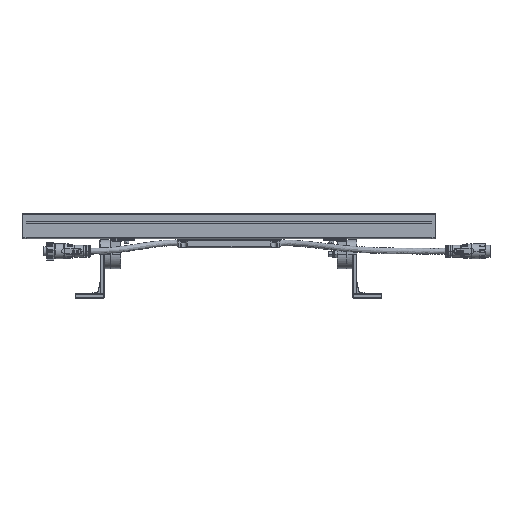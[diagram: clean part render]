
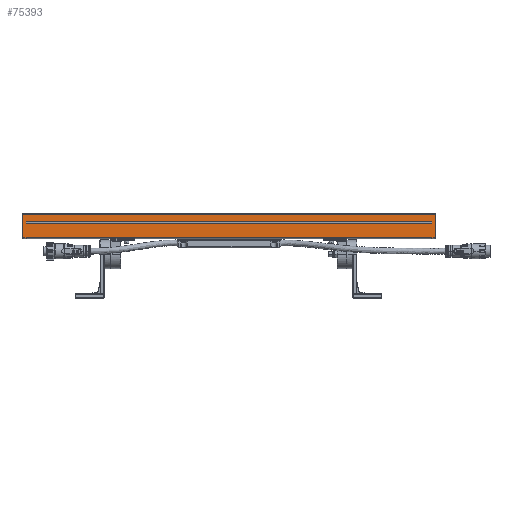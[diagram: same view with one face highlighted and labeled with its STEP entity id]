
A CAD part, top view. The second image highlights one B-rep face of the part: STEP entity #75393.
In plain terms, the highlighted planar face has unit normal (0, 0, 1).
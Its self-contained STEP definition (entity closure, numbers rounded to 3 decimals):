
#155 = VERTEX_POINT ( 'NONE', #37335 ) ;
#3464 = CARTESIAN_POINT ( 'NONE',  ( -245., 52.5, 27.5 ) ) ;
#3577 = ORIENTED_EDGE ( 'NONE', *, *, #27848, .F. ) ;
#3697 = ORIENTED_EDGE ( 'NONE', *, *, #92086, .F. ) ;
#4884 = VERTEX_POINT ( 'NONE', #74393 ) ;
#5245 = VECTOR ( 'NONE', #99176, 1000. ) ;
#6274 = LINE ( 'NONE', #6815, #43529 ) ;
#6815 = CARTESIAN_POINT ( 'NONE',  ( -249.8, 80.5, 27.5 ) ) ;
#7850 = VECTOR ( 'NONE', #89494, 1000. ) ;
#10426 = FACE_OUTER_BOUND ( 'NONE', #24612, .T. ) ;
#11475 = FACE_BOUND ( 'NONE', #43708, .T. ) ;
#12516 = ORIENTED_EDGE ( 'NONE', *, *, #41658, .T. ) ;
#14804 = ORIENTED_EDGE ( 'NONE', *, *, #69021, .T. ) ;
#16370 = CARTESIAN_POINT ( 'NONE',  ( -245., 52.5, 27.5 ) ) ;
#16392 = CARTESIAN_POINT ( 'NONE',  ( -245., 52.5, 27.5 ) ) ;
#17612 = CARTESIAN_POINT ( 'NONE',  ( 245., 52.5, 27.5 ) ) ;
#18371 = VERTEX_POINT ( 'NONE', #46567 ) ;
#18920 = LINE ( 'NONE', #26349, #84219 ) ;
#20648 = CARTESIAN_POINT ( 'NONE',  ( -249.8, 52.5, 27.5 ) ) ;
#20791 = CARTESIAN_POINT ( 'NONE',  ( -245., 69.9, 27.5 ) ) ;
#21264 = DIRECTION ( 'NONE',  ( 0., -1., 0. ) ) ;
#21727 = VECTOR ( 'NONE', #65761, 1000. ) ;
#24612 = EDGE_LOOP ( 'NONE', ( #79093, #102384, #3697, #93876, #70333, #12516 ) ) ;
#26349 = CARTESIAN_POINT ( 'NONE',  ( 249.8, 52.5, 27.5 ) ) ;
#27848 = EDGE_CURVE ( 'NONE', #49892, #71327, #34017, .T. ) ;
#34017 = LINE ( 'NONE', #66618, #5245 ) ;
#34308 = VERTEX_POINT ( 'NONE', #16392 ) ;
#37335 = CARTESIAN_POINT ( 'NONE',  ( 245., 72.3, 27.5 ) ) ;
#38772 = DIRECTION ( 'NONE',  ( 0., -1., 0. ) ) ;
#38882 = VECTOR ( 'NONE', #62916, 1000. ) ;
#39053 = CARTESIAN_POINT ( 'NONE',  ( -245., 72.3, 27.5 ) ) ;
#39624 = AXIS2_PLACEMENT_3D ( 'NONE', #3464, #99511, #83539 ) ;
#41658 = EDGE_CURVE ( 'NONE', #79667, #34308, #92775, .T. ) ;
#43529 = VECTOR ( 'NONE', #38772, 1000. ) ;
#43708 = EDGE_LOOP ( 'NONE', ( #54791, #49975, #3577, #14804 ) ) ;
#44177 = DIRECTION ( 'NONE',  ( 1., 0., 0. ) ) ;
#44499 = PLANE ( 'NONE',  #39624 ) ;
#46567 = CARTESIAN_POINT ( 'NONE',  ( 245., 69.9, 27.5 ) ) ;
#47624 = LINE ( 'NONE', #80218, #21727 ) ;
#47804 = VERTEX_POINT ( 'NONE', #93973 ) ;
#49892 = VERTEX_POINT ( 'NONE', #39053 ) ;
#49975 = ORIENTED_EDGE ( 'NONE', *, *, #63746, .T. ) ;
#54561 = LINE ( 'NONE', #88755, #89821 ) ;
#54791 = ORIENTED_EDGE ( 'NONE', *, *, #63331, .T. ) ;
#58841 = VECTOR ( 'NONE', #61716, 1000. ) ;
#58921 = DIRECTION ( 'NONE',  ( -1., 0., 0. ) ) ;
#61716 = DIRECTION ( 'NONE',  ( -1., 0., 0. ) ) ;
#62090 = VERTEX_POINT ( 'NONE', #83996 ) ;
#62916 = DIRECTION ( 'NONE',  ( 0., -1., 0. ) ) ;
#63331 = EDGE_CURVE ( 'NONE', #155, #18371, #67280, .T. ) ;
#63746 = EDGE_CURVE ( 'NONE', #18371, #71327, #102329, .T. ) ;
#63872 = EDGE_CURVE ( 'NONE', #34308, #76118, #91052, .T. ) ;
#65761 = DIRECTION ( 'NONE',  ( -1., 0., 0. ) ) ;
#66618 = CARTESIAN_POINT ( 'NONE',  ( -245., 80.5, 27.5 ) ) ;
#67280 = LINE ( 'NONE', #99308, #89538 ) ;
#67291 = LINE ( 'NONE', #77396, #38882 ) ;
#68212 = EDGE_CURVE ( 'NONE', #62090, #79667, #6274, .T. ) ;
#69021 = EDGE_CURVE ( 'NONE', #49892, #155, #54561, .T. ) ;
#70333 = ORIENTED_EDGE ( 'NONE', *, *, #68212, .T. ) ;
#71327 = VERTEX_POINT ( 'NONE', #20791 ) ;
#74393 = CARTESIAN_POINT ( 'NONE',  ( 249.8, 80.5, 27.5 ) ) ;
#75393 = ADVANCED_FACE ( 'NONE', ( #10426, #11475 ), #44499, .T. ) ;
#76118 = VERTEX_POINT ( 'NONE', #17612 ) ;
#77396 = CARTESIAN_POINT ( 'NONE',  ( 249.8, 80.5, 27.5 ) ) ;
#79093 = ORIENTED_EDGE ( 'NONE', *, *, #63872, .T. ) ;
#79667 = VERTEX_POINT ( 'NONE', #103269 ) ;
#80218 = CARTESIAN_POINT ( 'NONE',  ( -245., 80.5, 27.5 ) ) ;
#81274 = EDGE_CURVE ( 'NONE', #4884, #62090, #47624, .T. ) ;
#83539 = DIRECTION ( 'NONE',  ( 0., 1., 0. ) ) ;
#83996 = CARTESIAN_POINT ( 'NONE',  ( -249.8, 80.5, 27.5 ) ) ;
#84219 = VECTOR ( 'NONE', #58921, 1000. ) ;
#87179 = DIRECTION ( 'NONE',  ( 1., 0., 0. ) ) ;
#88755 = CARTESIAN_POINT ( 'NONE',  ( -245., 72.3, 27.5 ) ) ;
#89494 = DIRECTION ( 'NONE',  ( 1., 0., 0. ) ) ;
#89538 = VECTOR ( 'NONE', #21264, 1000. ) ;
#89821 = VECTOR ( 'NONE', #87179, 1000. ) ;
#91052 = LINE ( 'NONE', #16370, #7850 ) ;
#92086 = EDGE_CURVE ( 'NONE', #4884, #47804, #67291, .T. ) ;
#92775 = LINE ( 'NONE', #20648, #96186 ) ;
#93876 = ORIENTED_EDGE ( 'NONE', *, *, #81274, .T. ) ;
#93973 = CARTESIAN_POINT ( 'NONE',  ( 249.8, 52.5, 27.5 ) ) ;
#95359 = CARTESIAN_POINT ( 'NONE',  ( 745., 69.9, 27.5 ) ) ;
#96186 = VECTOR ( 'NONE', #44177, 1000. ) ;
#98612 = EDGE_CURVE ( 'NONE', #47804, #76118, #18920, .T. ) ;
#99176 = DIRECTION ( 'NONE',  ( 0., -1., 0. ) ) ;
#99308 = CARTESIAN_POINT ( 'NONE',  ( 245., 80.5, 27.5 ) ) ;
#99511 = DIRECTION ( 'NONE',  ( 0., 0., 1. ) ) ;
#102329 = LINE ( 'NONE', #95359, #58841 ) ;
#102384 = ORIENTED_EDGE ( 'NONE', *, *, #98612, .F. ) ;
#103269 = CARTESIAN_POINT ( 'NONE',  ( -249.8, 52.5, 27.5 ) ) ;
